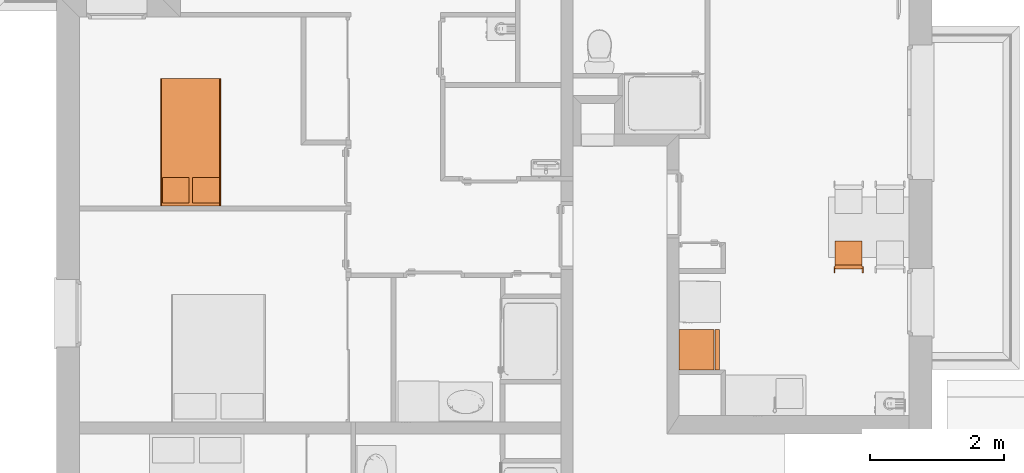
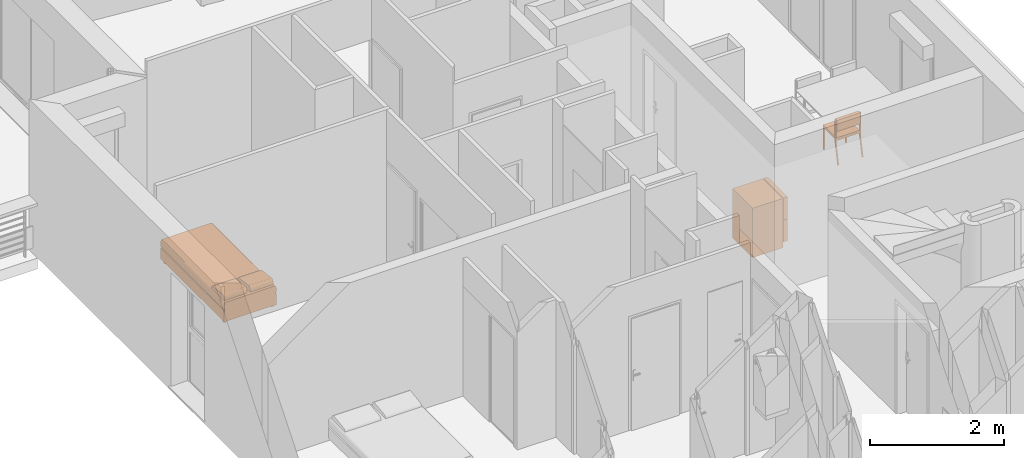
# One storey, part 149 of 164: 3 proxies.
"""IFC2X3 building model written with IfcOpenShell, lengths in millimetres."""

from ifc_helpers import new_model, entity, si_unit, converted_unit, derived_unit, money_unit, direction, frame, origin_with_axes, place, context, subcontext, project, spatial, open_shell, faceted_brep, surface_model, source, transform, mapped, type_object, element, save


model = new_model("IFC2X3")

# Units and contexts
model_context = context("Model", 3, precision=0.01, world=origin_with_axes(), true_north=direction((0.0, 1.0)))
body_context = subcontext(model_context, "Body", "Model", "MODEL_VIEW")
ifc_project = project(units=[si_unit("LENGTHUNIT", "METRE", prefix="MILLI"), si_unit("AREAUNIT", "SQUARE_METRE"), si_unit("VOLUMEUNIT", "CUBIC_METRE"), converted_unit("PLANEANGLEUNIT", "DEGREE", entity("IfcPlaneAngleMeasure", 0.0174532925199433), si_unit("PLANEANGLEUNIT", "RADIAN"), dimensions=[0, 0, 0, 0, 0, 0, 0]), money_unit("USD"), converted_unit("TIMEUNIT", "Year", entity("IfcTimeMeasure", 31557600.0), si_unit("TIMEUNIT", "SECOND"), dimensions=[0, 0, 1, 0, 0, 0, 0]), si_unit("MASSUNIT", "GRAM", prefix="KILO"), si_unit("THERMODYNAMICTEMPERATUREUNIT", "DEGREE_CELSIUS"), si_unit("LUMINOUSINTENSITYUNIT", "LUMEN"), si_unit("ENERGYUNIT", "JOULE", prefix="MEGA"), derived_unit("THERMALCONDUCTANCEUNIT", [(si_unit("POWERUNIT", "WATT"), 1), (si_unit("LENGTHUNIT", "METRE"), -1), (si_unit("THERMODYNAMICTEMPERATUREUNIT", "KELVIN"), -1)]), derived_unit("SPECIFICHEATCAPACITYUNIT", [(si_unit("ENERGYUNIT", "JOULE"), 1), (si_unit("MASSUNIT", "GRAM", prefix="KILO"), -1), (si_unit("THERMODYNAMICTEMPERATUREUNIT", "KELVIN"), -1)]), derived_unit("MASSDENSITYUNIT", [(si_unit("MASSUNIT", "GRAM", prefix="KILO"), 1), (si_unit("VOLUMEUNIT", "CUBIC_METRE"), -1)])], contexts=[model_context])

# Site, building, storey
site_placement = place(None, origin_with_axes())
site = spatial("IfcSite", under=ifc_project, at=site_placement, Name="Site", CompositionType="ELEMENT")
building_placement = place(site_placement, origin_with_axes())
building = spatial("IfcBuilding", under=site, at=building_placement, Name="Bâtiment", CompositionType="ELEMENT")
storey_placement = place(building_placement, frame((0.0, 0.0, 5750.0), z_axis=(0.0, 0.0, 1.0), x_axis=(1.0, 0.0, 0.0)))
storey = spatial("IfcBuildingStorey", under=building, at=storey_placement, Name="Etage1", CompositionType="ELEMENT", Elevation=5750.0)

# Proxies
building_element_proxy_type = type_object("IfcBuildingElementProxyType", PredefinedType="NOTDEFINED")
shared_shape_1 = source(origin_with_axes(), body_context, "Body", "Brep", [
    faceted_brep([(-39.99999978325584, 0.0, 0.0), (-39.99999978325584, 19.99999936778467, 0.0), (-19.99999989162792, 19.99999936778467, 0.0), (-19.99999989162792, 0.0, 0.0), (-39.99999978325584, 0.0, 400.0), (-39.99999978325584, 19.99999936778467, 400.0), (-19.99999989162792, 19.99999936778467, 400.0), (-19.99999989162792, 0.0, 400.0)], [[[0, 1, 2, 3]], [[0, 4, 5, 1]], [[1, 5, 6, 2]], [[2, 6, 7, 3]], [[3, 7, 4, 0]], [[7, 6, 5, 4]]]),
    faceted_brep([(-419.9999977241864, 0.0, 0.0), (-419.9999977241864, 19.99999936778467, 0.0), (-399.9999978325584, 19.99999936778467, 0.0), (-399.9999978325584, 0.0, 0.0), (-419.9999977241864, 0.0, 400.0), (-419.9999977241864, 19.99999936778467, 400.0), (-399.9999978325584, 19.99999936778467, 400.0), (-399.9999978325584, 0.0, 400.0)], [[[0, 1, 2, 3]], [[0, 4, 5, 1]], [[1, 5, 6, 2]], [[2, 6, 7, 3]], [[3, 7, 4, 0]], [[7, 6, 5, 4]]]),
    faceted_brep([(-399.9999978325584, 0.0, 400.0000000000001), (-399.9999978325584, 19.99999936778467, 400.0000000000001), (-39.99999978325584, 19.99999936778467, 400.0000000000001), (-39.99999978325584, 0.0, 400.0000000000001), (-399.9999978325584, 0.0, 420.0000000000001), (-399.9999978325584, 19.99999936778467, 420.0000000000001), (-39.99999978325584, 19.99999936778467, 420.0000000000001), (-39.99999978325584, 0.0, 420.0000000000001)], [[[0, 1, 2, 3]], [[0, 4, 5, 1]], [[1, 5, 6, 2]], [[2, 6, 7, 3]], [[3, 7, 4, 0]], [[7, 6, 5, 4]]]),
    faceted_brep([(-39.99999978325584, 19.99999936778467, 400.0000000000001), (-39.99999978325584, 379.9999879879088, 400.0000000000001), (-19.99999989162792, 379.9999879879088, 400.0000000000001), (-19.99999989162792, 19.99999936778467, 400.0000000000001), (-39.99999978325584, 19.99999936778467, 420.0000000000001), (-39.99999978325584, 379.9999879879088, 420.0000000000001), (-19.99999989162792, 379.9999879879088, 420.0000000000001), (-19.99999989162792, 19.99999936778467, 420.0000000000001)], [[[0, 1, 2, 3]], [[0, 4, 5, 1]], [[1, 5, 6, 2]], [[2, 6, 7, 3]], [[3, 7, 4, 0]], [[7, 6, 5, 4]]]),
    faceted_brep([(-419.9999977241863, 379.9999879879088, 400.0000000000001), (-419.9999977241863, 399.9999873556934, 400.0000000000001), (-19.99999989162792, 399.9999873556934, 400.0000000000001), (-19.99999989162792, 379.9999879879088, 400.0000000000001), (-419.9999977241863, 379.9999879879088, 420.0000000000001), (-419.9999977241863, 399.9999873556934, 420.0000000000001), (-19.99999989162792, 399.9999873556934, 420.0000000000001), (-19.99999989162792, 379.9999879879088, 420.0000000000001)], [[[0, 1, 2, 3]], [[0, 4, 5, 1]], [[1, 5, 6, 2]], [[2, 6, 7, 3]], [[3, 7, 4, 0]], [[7, 6, 5, 4]]]),
    faceted_brep([(-419.9999977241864, 19.99999936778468, 400.0000000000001), (-419.9999977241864, 379.9999879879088, 400.0000000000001), (-399.9999978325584, 379.9999879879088, 400.0000000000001), (-399.9999978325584, 19.99999936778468, 400.0000000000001), (-419.9999977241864, 19.99999936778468, 420.0000000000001), (-419.9999977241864, 379.9999879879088, 420.0000000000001), (-399.9999978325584, 379.9999879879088, 420.0000000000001), (-399.9999978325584, 19.99999936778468, 420.0000000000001)], [[[0, 1, 2, 3]], [[0, 4, 5, 1]], [[1, 5, 6, 2]], [[2, 6, 7, 3]], [[3, 7, 4, 0]], [[7, 6, 5, 4]]]),
    faceted_brep([(-419.9999977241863, 0.0, 400.0), (-419.9999977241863, 399.9999873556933, 400.0), (-19.99999989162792, 399.9999873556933, 400.0), (-19.99999989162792, 0.0, 400.0), (-419.9999977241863, 0.0, 450.0), (-419.9999977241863, 399.9999873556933, 450.0), (-19.99999989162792, 399.9999873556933, 450.0), (-19.99999989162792, 0.0, 450.0)], [[[0, 1, 2, 3]], [[0, 4, 5, 1]], [[1, 5, 6, 2]], [[2, 6, 7, 3]], [[3, 7, 4, 0]], [[7, 6, 5, 4]]]),
    faceted_brep([(-19.99999989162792, 379.9999879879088, 380.0), (-19.99999989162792, 399.9999873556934, 380.0), (0.0, 399.9999873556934, 380.0), (0.0, 379.9999879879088, 380.0), (-19.99999989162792, 379.9999879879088, 780.0), (-19.99999989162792, 399.9999873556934, 780.0), (0.0, 399.9999873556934, 780.0), (0.0, 379.9999879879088, 780.0)], [[[0, 1, 2, 3]], [[0, 4, 5, 1]], [[1, 5, 6, 2]], [[2, 6, 7, 3]], [[3, 7, 4, 0]], [[7, 6, 5, 4]]]),
    faceted_brep([(-439.9999976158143, 379.9999879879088, 380.0), (-439.9999976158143, 399.9999873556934, 380.0), (-419.9999977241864, 399.9999873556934, 380.0), (-419.9999977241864, 379.9999879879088, 380.0), (-439.9999976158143, 379.9999879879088, 780.0), (-439.9999976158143, 399.9999873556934, 780.0), (-419.9999977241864, 399.9999873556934, 780.0), (-419.9999977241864, 379.9999879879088, 780.0)], [[[0, 1, 2, 3]], [[0, 4, 5, 1]], [[1, 5, 6, 2]], [[2, 6, 7, 3]], [[3, 7, 4, 0]], [[7, 6, 5, 4]]]),
    faceted_brep([(-419.9999977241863, 359.999988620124, 580.0000000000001), (-419.9999977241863, 419.9999867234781, 580.0000000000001), (-19.99999989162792, 419.9999867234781, 580.0000000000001), (-19.99999989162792, 359.999988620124, 580.0000000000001), (-419.9999977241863, 359.999988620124, 780.0), (-419.9999977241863, 419.9999867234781, 780.0), (-19.99999989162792, 419.9999867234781, 780.0), (-19.99999989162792, 359.999988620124, 780.0)], [[[0, 1, 2, 3]], [[0, 4, 5, 1]], [[1, 5, 6, 2]], [[2, 6, 7, 3]], [[3, 7, 4, 0]], [[7, 6, 5, 4]]]),
    faceted_brep([(-19.99999989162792, 459.9999854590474, 0.0), (-19.99999989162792, 479.5709559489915, 4.120326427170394), (0.0, 479.5709559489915, 4.120326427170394), (0.0, 459.9999854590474, 0.0), (-19.99999989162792, 379.997669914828, 379.999760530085), (-19.99999989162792, 399.5686404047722, 384.1200869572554), (0.0, 399.5686404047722, 384.1200869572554), (0.0, 379.997669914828, 379.999760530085)], [[[0, 1, 2, 3]], [[0, 4, 5, 1]], [[1, 5, 6, 2]], [[2, 6, 7, 3]], [[3, 7, 4, 0]], [[7, 6, 5, 4]]]),
    faceted_brep([(-439.9999976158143, 459.9999854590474, 0.0), (-439.9999976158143, 479.5709559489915, 4.120326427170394), (-419.9999977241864, 479.5709559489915, 4.120326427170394), (-419.9999977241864, 459.9999854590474, 0.0), (-439.9999976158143, 379.997669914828, 379.999760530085), (-439.9999976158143, 399.5686404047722, 384.1200869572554), (-419.9999977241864, 399.5686404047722, 384.1200869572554), (-419.9999977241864, 379.997669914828, 379.999760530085)], [[[0, 1, 2, 3]], [[0, 4, 5, 1]], [[1, 5, 6, 2]], [[2, 6, 7, 3]], [[3, 7, 4, 0]], [[7, 6, 5, 4]]]),
])
proxy_1_placement = place(storey_placement, frame((2228193.254614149, -629738.7510234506, 0.0), z_axis=(0.0, 0.0, 1.0), x_axis=(-1.0, 0.0, 0.0)))
element("IfcBuildingElementProxy", 1, at=proxy_1_placement, inside=storey, type_object=building_element_proxy_type, Name="Obj.-027", context=body_context, shape_type="MappedRepresentation", body=[
    mapped(shared_shape_1, transform((0.0, 0.0, 0.0))),
])
shared_shape_2 = source(origin_with_axes(), body_context, "Body", "SurfaceModel", [
    faceted_brep([(400.0, -95.0, 0.0), (400.0, -47.5, 0.0), (425.0000000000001, -47.5, 0.0), (425.0000000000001, -95.0, 0.0), (400.0, -95.0, 50.0), (400.0, -47.5, 50.0), (425.0000000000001, -47.5, 50.0), (425.0000000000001, -95.0, 50.0)], [[[0, 1, 2, 3]], [[0, 4, 5, 1]], [[1, 5, 6, 2]], [[2, 6, 7, 3]], [[3, 7, 4, 0]], [[7, 6, 5, 4]]]),
    faceted_brep([(400.0, -1852.5, 0.0), (400.0, -1805.0, 0.0), (425.0000000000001, -1805.0, 0.0), (425.0000000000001, -1852.5, 0.0), (400.0, -1852.5, 50.0), (400.0, -1805.0, 50.0), (425.0000000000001, -1805.0, 50.0), (425.0000000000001, -1852.5, 50.0)], [[[0, 1, 2, 3]], [[0, 4, 5, 1]], [[1, 5, 6, 2]], [[2, 6, 7, 3]], [[3, 7, 4, 0]], [[7, 6, 5, 4]]]),
    faceted_brep([(-425.0000000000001, -1852.5, 0.0), (-425.0000000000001, -1805.0, 0.0), (-400.0, -1805.0, 0.0), (-400.0, -1852.5, 0.0), (-425.0000000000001, -1852.5, 50.0), (-425.0000000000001, -1805.0, 50.0), (-400.0, -1805.0, 50.0), (-400.0, -1852.5, 50.0)], [[[0, 1, 2, 3]], [[0, 4, 5, 1]], [[1, 5, 6, 2]], [[2, 6, 7, 3]], [[3, 7, 4, 0]], [[7, 6, 5, 4]]]),
    faceted_brep([(-425.0000000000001, -94.99999999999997, 0.0), (-425.0000000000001, -47.49999999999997, 0.0), (-400.0, -47.49999999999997, 0.0), (-400.0, -94.99999999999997, 0.0), (-425.0000000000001, -94.99999999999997, 50.0), (-425.0000000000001, -47.49999999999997, 50.0), (-400.0, -47.49999999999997, 50.0), (-400.0, -94.99999999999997, 50.0)], [[[0, 1, 2, 3]], [[0, 4, 5, 1]], [[1, 5, 6, 2]], [[2, 6, 7, 3]], [[3, 7, 4, 0]], [[7, 6, 5, 4]]]),
    faceted_brep([(450.0, 0.0, 50.0), (450.0, -1900.0, 50.00000000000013), (-450.0, -1900.0, 50.00000000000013), (-450.0, 0.0, 50.0), (450.0, 0.0, 250.0), (450.0, -1900.0, 250.0000000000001), (-450.0, -1900.0, 250.0000000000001), (-450.0, 0.0, 250.0)], [[[0, 1, 2, 3]], [[4, 5, 1, 0]], [[1, 5, 6, 2]], [[3, 2, 6, 7]], [[0, 3, 7, 4]], [[7, 6, 5, 4]]]),
    surface_model("IfcShellBasedSurfaceModel", [(-425.0000000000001, 0.0, 250.0), (-425.0000000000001, -1900.0, 250.0000000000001), (-429.3412044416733, -1900.0, 250.7596123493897), (-429.3412044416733, 0.0, 250.7596123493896), (425.0000000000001, -1900.0, 250.0000000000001), (429.3412044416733, -1900.0, 250.7596123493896), (433.5505035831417, -1900.0, 253.0153689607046), (437.5, -1900.0, 256.6987298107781), (441.0696902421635, -1900.0, 261.6977778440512), (444.1511110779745, -1900.0, 267.8606195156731), (446.650635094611, -1900.0, 275.0000000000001), (448.4923155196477, -1900.0, 282.8989928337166), (449.6201938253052, -1900.0, 291.3175911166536), (450.0, -1900.0, 300.0000000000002), (450.0000000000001, -1900.0, 350.0000000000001), (449.6201938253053, -1900.0, 358.6824088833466), (448.4923155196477, -1900.0, 367.1010071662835), (446.650635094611, -1900.0, 375.0000000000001), (444.1511110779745, -1900.0, 382.1393804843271), (441.0696902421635, -1900.0, 388.302222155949), (437.5000000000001, -1900.0, 393.3012701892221), (433.5505035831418, -1900.0, 396.9846310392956), (429.3412044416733, -1900.0, 399.2403876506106), (425.0000000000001, -1900.0, 400.0000000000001), (-425.0, -1900.0, 400.0000000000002), (-429.3412044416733, -1900.0, 399.2403876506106), (-433.5505035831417, -1900.0, 396.9846310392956), (-437.5, -1900.0, 393.3012701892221), (-441.0696902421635, -1900.0, 388.302222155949), (-444.1511110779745, -1900.0, 382.1393804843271), (-446.6506350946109, -1900.0, 375.0000000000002), (-448.4923155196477, -1900.0, 367.1010071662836), (-449.6201938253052, -1900.0, 358.6824088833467), (-450.0, -1900.0, 350.0000000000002), (-450.0, -1900.0, 300.0000000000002), (-449.6201938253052, -1900.0, 291.3175911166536), (-448.4923155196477, -1900.0, 282.8989928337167), (-446.650635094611, -1900.0, 275.0000000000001), (-444.1511110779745, -1900.0, 267.8606195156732), (-441.0696902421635, -1900.0, 261.6977778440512), (-437.5000000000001, -1900.0, 256.6987298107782), (-433.5505035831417, -1900.0, 253.0153689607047), (-433.5505035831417, 0.0, 253.0153689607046), (425.0000000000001, 0.0, 250.0), (-437.5000000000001, 0.0, 256.698729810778), (-441.0696902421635, 0.0, 261.6977778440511), (-444.1511110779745, 0.0, 267.8606195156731), (-446.650635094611, 0.0, 275.0), (-448.4923155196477, 0.0, 282.8989928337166), (-449.6201938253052, 0.0, 291.3175911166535), (-450.0, 0.0, 300.0000000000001), (-450.0, 0.0, 350.0000000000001), (-449.6201938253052, 0.0, 358.6824088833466), (-448.4923155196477, 0.0, 367.1010071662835), (-446.6506350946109, 0.0, 375.0000000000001), (-444.1511110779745, 0.0, 382.139380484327), (-441.0696902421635, 0.0, 388.3022221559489), (-437.5, 0.0, 393.301270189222), (-433.5505035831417, 0.0, 396.9846310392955), (-429.3412044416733, 0.0, 399.2403876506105), (-425.0, 0.0, 400.0000000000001), (425.0000000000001, 0.0, 400.0), (429.3412044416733, 0.0, 399.2403876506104), (433.5505035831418, 0.0, 396.9846310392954), (437.5000000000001, 0.0, 393.301270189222), (441.0696902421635, 0.0, 388.3022221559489), (444.1511110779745, 0.0, 382.139380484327), (446.650635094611, 0.0, 375.0), (448.4923155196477, 0.0, 367.1010071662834), (449.6201938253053, 0.0, 358.6824088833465), (450.0000000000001, 0.0, 350.0), (450.0, 0.0, 300.0000000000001), (449.6201938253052, 0.0, 291.3175911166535), (448.4923155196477, 0.0, 282.8989928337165), (446.650635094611, 0.0, 275.0), (444.1511110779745, 0.0, 267.860619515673), (441.0696902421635, 0.0, 261.6977778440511), (437.5, 0.0, 256.698729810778), (433.5505035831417, 0.0, 253.0153689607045), (429.3412044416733, 0.0, 250.7596123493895)], [open_shell([[[0, 1, 2, 3]], [[4, 5, 6, 7, 8, 9, 10, 11, 12, 13, 14, 15, 16, 17, 18, 19, 20, 21, 22, 23, 24, 25, 26, 27, 28, 29, 30, 31, 32, 33, 34, 35, 36, 37, 38, 39, 40, 41, 2, 1]], [[3, 2, 41, 42]], [[43, 0, 3, 42, 44, 45, 46, 47, 48, 49, 50, 51, 52, 53, 54, 55, 56, 57, 58, 59, 60, 61, 62, 63, 64, 65, 66, 67, 68, 69, 70, 71, 72, 73, 74, 75, 76, 77, 78, 79]], [[79, 5, 4, 43]], [[78, 6, 5, 79]], [[77, 7, 6, 78]], [[76, 8, 7, 77]], [[75, 9, 8, 76]], [[74, 10, 9, 75]], [[73, 11, 10, 74]], [[72, 12, 11, 73]], [[71, 13, 12, 72]], [[70, 14, 13, 71]], [[69, 15, 14, 70]], [[68, 16, 15, 69]], [[67, 17, 16, 68]], [[66, 18, 17, 67]], [[65, 19, 18, 66]], [[64, 20, 19, 65]], [[63, 21, 20, 64]], [[62, 22, 21, 63]], [[61, 23, 22, 62]], [[60, 24, 23, 61]], [[59, 25, 24, 60]], [[58, 26, 25, 59]], [[57, 27, 26, 58]], [[56, 28, 27, 57]], [[55, 29, 28, 56]], [[54, 30, 29, 55]], [[53, 31, 30, 54]], [[52, 32, 31, 53]], [[51, 33, 32, 52]], [[50, 34, 33, 51]], [[49, 35, 34, 50]], [[48, 36, 35, 49]], [[47, 37, 36, 48]], [[46, 38, 37, 47]], [[45, 39, 38, 46]], [[44, 40, 39, 45]], [[42, 41, 40, 44]]])]),
    faceted_brep([(-24.99999999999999, -47.49999999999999, 400.0), (-425.0, -47.50000000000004, 400.0000000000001), (-425.0, -47.50000000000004, 443.4000000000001), (-24.99999999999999, -47.49999999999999, 443.4), (-24.99999999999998, -427.5, 400.0), (-425.0, -427.5, 400.0000000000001), (-425.0, -427.6960812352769, 408.6954428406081), (-425.0, -426.4675711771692, 417.2966661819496), (-425.0, -423.8511300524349, 425.5469991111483), (-425.0, -419.924835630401, 433.2002417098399), (-425.0, -414.8058532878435, 440.0280119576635), (-425.0, -408.6469396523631, 445.826560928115), (-425.0, -401.6318841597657, 450.4228529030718), (-425.0, -393.9700245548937, 453.6797289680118), (-425.0, -385.89, 455.5000000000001), (-425.0, -100.8900000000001, 493.0000000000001), (-425.0, -92.85488048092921, 493.3370808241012), (-425.0, -84.88093291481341, 492.2422169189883), (-425.0, -77.19681007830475, 489.7468034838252), (-425.0, -70.02285403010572, 485.922396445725), (-425.0, -63.56477780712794, 480.878660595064), (-425.0, -58.00776660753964, 474.7602249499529), (-425.0, -53.51116760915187, 467.7425355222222), (-425.0, -50.20392069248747, 460.0268244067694), (-425.0, -48.18086109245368, 451.8343394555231), (-24.99999999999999, -48.18086109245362, 451.834339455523), (-24.99999999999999, -50.20392069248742, 460.0268244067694), (-24.99999999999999, -53.51116760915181, 467.7425355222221), (-24.99999999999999, -58.00776660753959, 474.7602249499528), (-24.99999999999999, -63.56477780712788, 480.878660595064), (-24.99999999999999, -70.02285403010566, 485.922396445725), (-24.99999999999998, -77.19681007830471, 489.7468034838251), (-24.99999999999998, -84.88093291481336, 492.2422169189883), (-24.99999999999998, -92.85488048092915, 493.3370808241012), (-24.99999999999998, -100.89, 493.0000000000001), (-24.99999999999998, -385.89, 455.5), (-24.99999999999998, -393.9700245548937, 453.6797289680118), (-24.99999999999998, -401.6318841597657, 450.4228529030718), (-24.99999999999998, -408.6469396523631, 445.826560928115), (-24.99999999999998, -414.8058532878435, 440.0280119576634), (-24.99999999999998, -419.9248356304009, 433.2002417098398), (-24.99999999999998, -423.8511300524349, 425.5469991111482), (-24.99999999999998, -426.4675711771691, 417.2966661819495), (-24.99999999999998, -427.6960812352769, 408.695442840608)], [[[0, 1, 2, 3]], [[4, 5, 1, 0]], [[1, 5, 6, 7, 8, 9, 10, 11, 12, 13, 14, 15, 16, 17, 18, 19, 20, 21, 22, 23, 24, 2]], [[3, 2, 24, 25]], [[0, 3, 25, 26, 27, 28, 29, 30, 31, 32, 33, 34, 35, 36, 37, 38, 39, 40, 41, 42, 43, 4]], [[43, 6, 5, 4]], [[42, 7, 6, 43]], [[41, 8, 7, 42]], [[40, 9, 8, 41]], [[39, 10, 9, 40]], [[38, 11, 10, 39]], [[37, 12, 11, 38]], [[36, 13, 12, 37]], [[35, 14, 13, 36]], [[34, 15, 14, 35]], [[33, 16, 15, 34]], [[32, 17, 16, 33]], [[31, 18, 17, 32]], [[30, 19, 18, 31]], [[29, 20, 19, 30]], [[28, 21, 20, 29]], [[27, 22, 21, 28]], [[26, 23, 22, 27]], [[25, 24, 23, 26]]]),
    faceted_brep([(425.0000000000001, -47.49999999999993, 399.9999999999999), (25.00000000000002, -47.49999999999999, 400.0), (25.00000000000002, -47.49999999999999, 443.4), (425.0000000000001, -47.49999999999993, 443.4), (425.0000000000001, -427.4999999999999, 399.9999999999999), (25.00000000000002, -427.4999999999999, 400.0), (25.00000000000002, -427.6960812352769, 408.695442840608), (25.00000000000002, -426.4675711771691, 417.2966661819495), (25.00000000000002, -423.8511300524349, 425.5469991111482), (25.00000000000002, -419.9248356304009, 433.2002417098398), (25.00000000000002, -414.8058532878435, 440.0280119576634), (25.00000000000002, -408.6469396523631, 445.826560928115), (25.00000000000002, -401.6318841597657, 450.4228529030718), (25.00000000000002, -393.9700245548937, 453.6797289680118), (25.00000000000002, -385.8899999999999, 455.5), (25.00000000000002, -100.89, 493.0000000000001), (25.00000000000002, -92.85488048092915, 493.3370808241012), (25.00000000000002, -84.88093291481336, 492.2422169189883), (25.00000000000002, -77.19681007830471, 489.7468034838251), (25.00000000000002, -70.02285403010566, 485.922396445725), (25.00000000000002, -63.56477780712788, 480.878660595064), (25.00000000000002, -58.00776660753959, 474.7602249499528), (25.00000000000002, -53.51116760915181, 467.7425355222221), (25.00000000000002, -50.20392069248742, 460.0268244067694), (25.00000000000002, -48.18086109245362, 451.834339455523), (425.0000000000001, -48.18086109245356, 451.834339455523), (425.0000000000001, -50.20392069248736, 460.0268244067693), (425.0000000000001, -53.51116760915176, 467.7425355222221), (425.0000000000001, -58.00776660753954, 474.7602249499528), (425.0000000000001, -63.56477780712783, 480.8786605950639), (425.0000000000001, -70.0228540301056, 485.9223964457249), (425.0000000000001, -77.19681007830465, 489.7468034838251), (425.0000000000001, -84.8809329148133, 492.2422169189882), (425.0000000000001, -92.8548804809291, 493.3370808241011), (425.0000000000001, -100.89, 493.0), (425.0000000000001, -385.8899999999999, 455.4999999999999), (425.0000000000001, -393.9700245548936, 453.6797289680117), (425.0000000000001, -401.6318841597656, 450.4228529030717), (425.0000000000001, -408.646939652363, 445.8265609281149), (425.0000000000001, -414.8058532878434, 440.0280119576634), (425.0000000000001, -419.9248356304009, 433.2002417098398), (425.0000000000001, -423.8511300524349, 425.5469991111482), (425.0000000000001, -426.4675711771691, 417.2966661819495), (425.0000000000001, -427.6960812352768, 408.6954428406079)], [[[0, 1, 2, 3]], [[4, 5, 1, 0]], [[1, 5, 6, 7, 8, 9, 10, 11, 12, 13, 14, 15, 16, 17, 18, 19, 20, 21, 22, 23, 24, 2]], [[3, 2, 24, 25]], [[0, 3, 25, 26, 27, 28, 29, 30, 31, 32, 33, 34, 35, 36, 37, 38, 39, 40, 41, 42, 43, 4]], [[43, 6, 5, 4]], [[42, 7, 6, 43]], [[41, 8, 7, 42]], [[40, 9, 8, 41]], [[39, 10, 9, 40]], [[38, 11, 10, 39]], [[37, 12, 11, 38]], [[36, 13, 12, 37]], [[35, 14, 13, 36]], [[34, 15, 14, 35]], [[33, 16, 15, 34]], [[32, 17, 16, 33]], [[31, 18, 17, 32]], [[30, 19, 18, 31]], [[29, 20, 19, 30]], [[28, 21, 20, 29]], [[27, 22, 21, 28]], [[26, 23, 22, 27]], [[25, 24, 23, 26]]]),
])
proxy_2_placement = place(storey_placement, frame((2218630.361488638, -629220.7852898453, 0.0), z_axis=(0.0, 0.0, 1.0), x_axis=(-0.9999999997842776, -2.077125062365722e-05, 0.0)))
element("IfcBuildingElementProxy", 2, at=proxy_2_placement, inside=storey, type_object=building_element_proxy_type, Name="Obj.-003", context=body_context, shape_type="MappedRepresentation", body=[
    mapped(shared_shape_2, transform((0.0, 0.0, 0.0))),
])
shared_shape_3 = source(origin_with_axes(), body_context, "Body", "SurfaceModel", [
    faceted_brep([(0.0, 80.0, 100.0), (600.0, 80.0, 100.0), (600.0, 80.0, 900.0), (0.0, 80.0, 900.0), (0.0, 600.0, 100.0), (600.0, 600.0, 100.0), (600.0, 600.0, 900.0), (0.0, 600.0, 900.0)], [[[0, 1, 2, 3]], [[0, 4, 5, 1]], [[1, 5, 6, 2]], [[3, 2, 6, 7]], [[4, 0, 3, 7]], [[5, 4, 7, 6]]]),
    faceted_brep([(0.0, 80.0, 0.0), (600.0, 80.0, 0.0), (600.0, 80.0, 100.0), (0.0, 80.0, 100.0), (0.0, 600.0, 0.0), (600.0, 600.0, 0.0), (600.0, 600.0, 100.0), (0.0, 600.0, 100.0)], [[[0, 1, 2, 3]], [[0, 4, 5, 1]], [[1, 5, 6, 2]], [[3, 2, 6, 7]], [[4, 0, 3, 7]], [[5, 4, 7, 6]]]),
    faceted_brep([(0.0, 70.0, 100.0), (600.0, 70.0, 100.0), (600.0, 0.0, 100.0), (0.0, 0.0, 100.0), (0.0, 70.00000000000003, 494.0), (600.0, 70.00000000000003, 494.0), (600.0, 0.0, 494.0), (0.0, 0.0, 494.0)], [[[0, 1, 2, 3]], [[0, 4, 5, 1]], [[1, 5, 6, 2]], [[3, 2, 6, 7]], [[4, 0, 3, 7]], [[5, 4, 7, 6]]]),
    faceted_brep([(0.0, 70.0, 500.0), (600.0, 70.0, 500.0), (600.0, 0.0, 500.0), (0.0, 0.0, 500.0), (0.0, 70.00000000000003, 900.0), (600.0, 70.00000000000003, 900.0), (600.0, 0.0, 900.0), (0.0, 0.0, 900.0)], [[[0, 1, 2, 3]], [[0, 4, 5, 1]], [[1, 5, 6, 2]], [[3, 2, 6, 7]], [[4, 0, 3, 7]], [[5, 4, 7, 6]]]),
    surface_model("IfcShellBasedSurfaceModel", [(600.0, -30.0, 300.0000000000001), (600.0, -30.0, 494.0000000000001), (600.0, 0.0, 494.0000000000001), (600.0, 0.0, 300.0000000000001)], [open_shell([[[0, 1, 2, 3]]])]),
    surface_model("IfcShellBasedSurfaceModel", [(600.0, -30.0, 300.0000000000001), (600.0, -30.0, 494.0000000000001), (570.0, -30.0, 494.0000000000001), (570.0, -30.0, 300.0000000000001)], [open_shell([[[0, 1, 2, 3]]])]),
    surface_model("IfcShellBasedSurfaceModel", [(600.0, -30.0, 500.0), (600.0, -30.0, 700.0), (600.0, 0.0, 700.0), (600.0, 0.0, 500.0)], [open_shell([[[0, 1, 2, 3]]])]),
    surface_model("IfcShellBasedSurfaceModel", [(600.0, -30.0, 500.0), (600.0, -30.0, 700.0), (570.0, -30.0, 700.0), (570.0, -30.0, 500.0)], [open_shell([[[0, 1, 2, 3]]])]),
])
proxy_3_placement = place(storey_placement, frame((2226492.31835671, -631657.676345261, 0.0), z_axis=(0.0, 0.0, 1.0), x_axis=(0.0, 1.0, 0.0)))
element("IfcBuildingElementProxy", 3, at=proxy_3_placement, inside=storey, type_object=building_element_proxy_type, Name="Obj.-019", context=body_context, shape_type="MappedRepresentation", body=[
    mapped(shared_shape_3, transform((0.0, 0.0, 0.0))),
])

save(model, "model.ifc")
